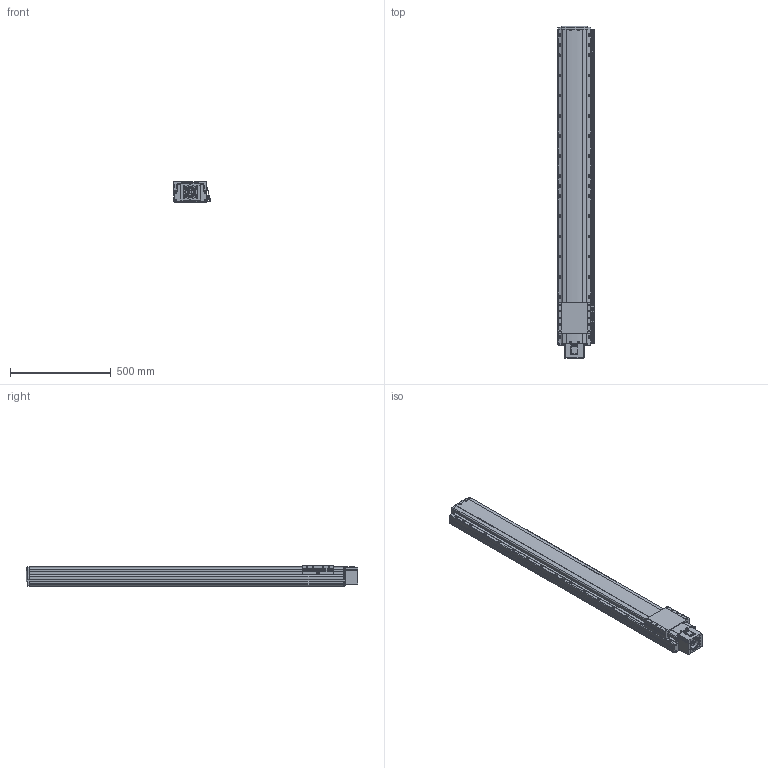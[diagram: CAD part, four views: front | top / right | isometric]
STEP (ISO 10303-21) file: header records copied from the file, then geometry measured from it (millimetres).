
FILE_DESCRIPTION(('STEP AP214'),'1');
FILE_NAME('Z:/Web/3D/PSA165/STP/PSA165-1300 (3D)/PSA165ㅁㅁ-1300S+3SR.stp','2014-06-24T10:37:39',(' '),(' '),'Spatial InterOp 3D',' ',' ');
FILE_SCHEMA(('automotive_design'));
Length unit declared in the file: millimetre
Products named in the file (85): 스크루 : Round - M4.0 x 12.0; RRCV-PA160; BASE; 스크루 : Round - M4.0 x 10.0; RN15; Screw 20; SLIDE; FRCV; 스크루 : Socket - M6.0 x 25.0; MTHZ-SAN150-80A; SSFX-SAN65; CPLCV-SAN65; 스크루 : Round - M3.0 x 6.0; SDWA47C(2); SDWA47C(3-1); SDWA47C(3); SDWA47C(1); SDWA47C(4); SDWA47C(5); M3.0 x 6.0; SRL-16x17-360L; SGD-SAN150; EE-SX674; SBK-SX674-352; BHCS M4.0 x 10.0
Bounding box: 181 x 1649.8 x 104 mm (x, y, z)
Volume: 22259632.8 mm3; surface area: 1571595.8 mm2
Topology: 85 solids, 85 shells, 3641 faces, 9691 edges, 6245 vertices
Faces by surface type: plane 1771, cylinder 1332, cone 409, sphere 70, bspline 35, torus 24
Entity records: 148885 total; most frequent: CARTESIAN_POINT 25620, DIRECTION 20115, ORIENTED_EDGE 19022, EDGE_CURVE 9511, AXIS2_PLACEMENT_3D 7230, VERTEX_POINT 6245, LINE 5655, VECTOR 5655
